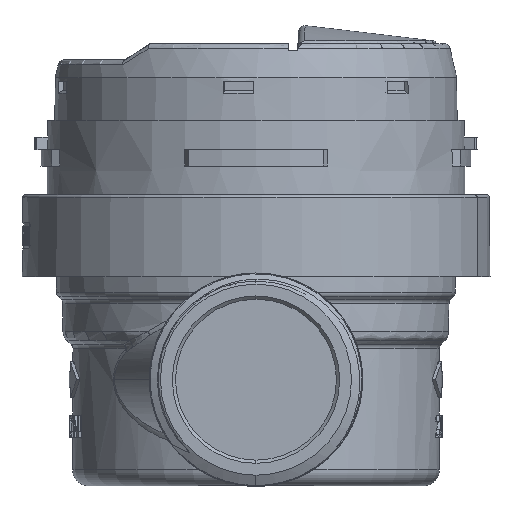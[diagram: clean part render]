
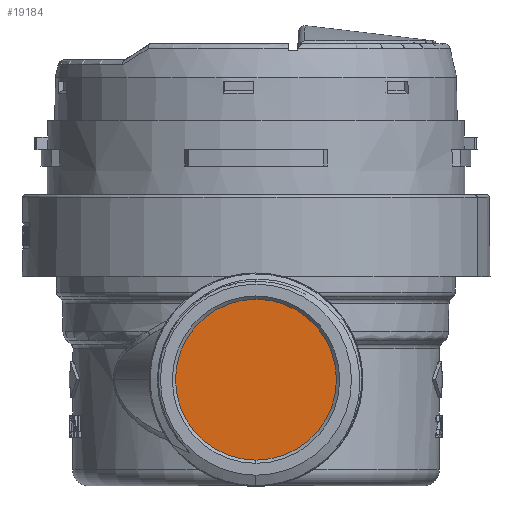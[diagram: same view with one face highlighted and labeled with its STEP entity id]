
A CAD part, left-side view. The second image highlights one B-rep face of the part: STEP entity #19184.
In plain terms, the highlighted planar face has unit normal (-1, 0, 0).
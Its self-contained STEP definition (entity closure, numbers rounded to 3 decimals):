
#1153 = VERTEX_POINT ( 'NONE', #39806 ) ;
#5523 = CARTESIAN_POINT ( 'NONE',  ( -58.5, 0., 0. ) ) ;
#5676 = ORIENTED_EDGE ( 'NONE', *, *, #107846, .T. ) ;
#5801 = PLANE ( 'NONE',  #63470 ) ;
#6212 = EDGE_CURVE ( 'NONE', #78937, #1153, #79029, .T. ) ;
#15182 = FACE_OUTER_BOUND ( 'NONE', #31300, .T. ) ;
#19184 = ADVANCED_FACE ( 'NONE', ( #15182 ), #5801, .F. ) ;
#25212 = CARTESIAN_POINT ( 'NONE',  ( -58.5, 0., 0. ) ) ;
#31300 = EDGE_LOOP ( 'NONE', ( #5676, #55203 ) ) ;
#39806 = CARTESIAN_POINT ( 'NONE',  ( -58.5, 0., 12.5 ) ) ;
#55203 = ORIENTED_EDGE ( 'NONE', *, *, #6212, .T. ) ;
#58880 = CIRCLE ( 'NONE', #76951, 12.5 ) ;
#61043 = CARTESIAN_POINT ( 'NONE',  ( -58.5, 0., 0. ) ) ;
#63470 = AXIS2_PLACEMENT_3D ( 'NONE', #25212, #111640, #63659 ) ;
#63623 = CARTESIAN_POINT ( 'NONE',  ( -58.5, 0., -12.5 ) ) ;
#63659 = DIRECTION ( 'NONE',  ( 0., 1., 0. ) ) ;
#70955 = AXIS2_PLACEMENT_3D ( 'NONE', #5523, #103132, #74124 ) ;
#74124 = DIRECTION ( 'NONE',  ( 0., 0., 1. ) ) ;
#76951 = AXIS2_PLACEMENT_3D ( 'NONE', #61043, #81175, #99490 ) ;
#78937 = VERTEX_POINT ( 'NONE', #63623 ) ;
#79029 = CIRCLE ( 'NONE', #70955, 12.5 ) ;
#81175 = DIRECTION ( 'NONE',  ( -1., 0., 0. ) ) ;
#99490 = DIRECTION ( 'NONE',  ( 0., 0., 1. ) ) ;
#103132 = DIRECTION ( 'NONE',  ( -1., 0., 0. ) ) ;
#107846 = EDGE_CURVE ( 'NONE', #1153, #78937, #58880, .T. ) ;
#111640 = DIRECTION ( 'NONE',  ( 1., 0., 0. ) ) ;
